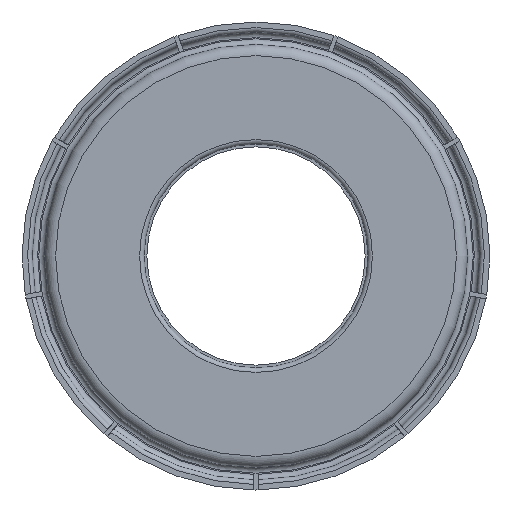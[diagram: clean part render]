
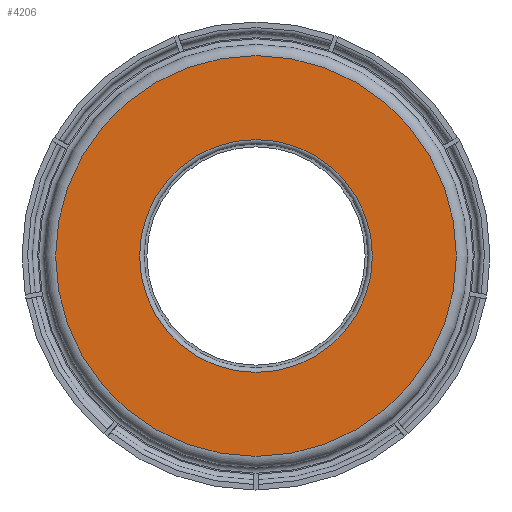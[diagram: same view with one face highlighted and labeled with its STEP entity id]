
A CAD part, front view. The second image highlights one B-rep face of the part: STEP entity #4206.
In plain terms, the highlighted planar face has unit normal (0, -1, 0).
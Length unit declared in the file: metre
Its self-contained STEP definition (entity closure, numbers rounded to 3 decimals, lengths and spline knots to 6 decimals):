
#993=PLANE('',#4540);
#2244=ORIENTED_EDGE('',*,*,#2876,.T.);
#2245=ORIENTED_EDGE('',*,*,#2795,.T.);
#2795=EDGE_CURVE('',#3262,#3262,#3394,.T.);
#2876=EDGE_CURVE('',#3300,#3300,#3432,.T.);
#3262=VERTEX_POINT('',#7814);
#3300=VERTEX_POINT('',#8035);
#3394=CIRCLE('',#4455,0.00895);
#3432=CIRCLE('',#4541,0.0052);
#3686=EDGE_LOOP('',(#2244));
#3687=EDGE_LOOP('',(#2245));
#3944=FACE_BOUND('',#3686,.T.);
#3945=FACE_BOUND('',#3687,.T.);
#4206=ADVANCED_FACE('',(#3944,#3945),#993,.F.);
#4455=AXIS2_PLACEMENT_3D('',#7813,#5204,#5205);
#4540=AXIS2_PLACEMENT_3D('',#8033,#5399,#5400);
#4541=AXIS2_PLACEMENT_3D('',#8034,#5401,#5402);
#5204=DIRECTION('',(0.,-1.,0.));
#5205=DIRECTION('',(0.,0.,-1.));
#5399=DIRECTION('',(0.,1.,0.));
#5400=DIRECTION('',(1.,0.,0.));
#5401=DIRECTION('',(0.,1.,0.));
#5402=DIRECTION('',(0.,0.,1.));
#7813=CARTESIAN_POINT('',(0.,-0.0034,0.));
#7814=CARTESIAN_POINT('',(0.,-0.0034,-0.00895));
#8033=CARTESIAN_POINT('',(0.,-0.0034,0.));
#8034=CARTESIAN_POINT('',(0.,-0.0034,0.));
#8035=CARTESIAN_POINT('',(0.,-0.0034,0.0052));
